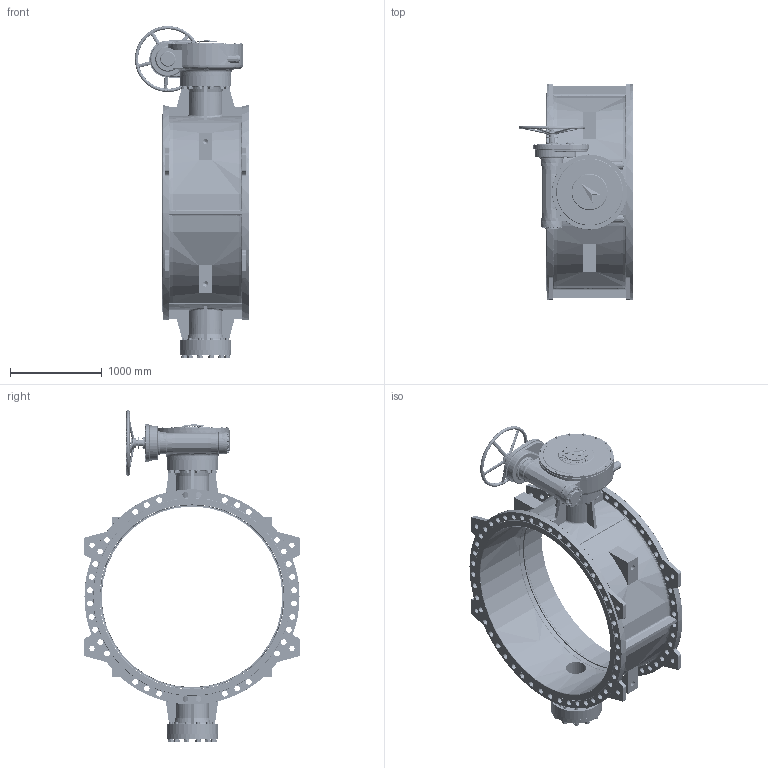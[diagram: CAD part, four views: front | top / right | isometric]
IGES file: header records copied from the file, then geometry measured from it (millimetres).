
Start section: SolidWorks IGES file using analytic representation for surfaces
Global section: file name: C:\Users\Administrator\Desktop\8#恦謫眊F40\1800 16\igs\2000 16_1.IGS,15; native system: HSolidWorks 2012; preprocessor: SolidWorks 2012; author: Administrator; date: 150115.113758; units: millimetre
Bounding box: 1246.99 x 2355 x 3620.43 mm (x, y, z)
Surface area: 30550589.4 mm2 (no closed solid volume)
Topology: 0 solids, 0 shells, 4575 faces, 63844 edges, 63650 vertices
Faces by surface type: revolution 2492, bspline 2083
